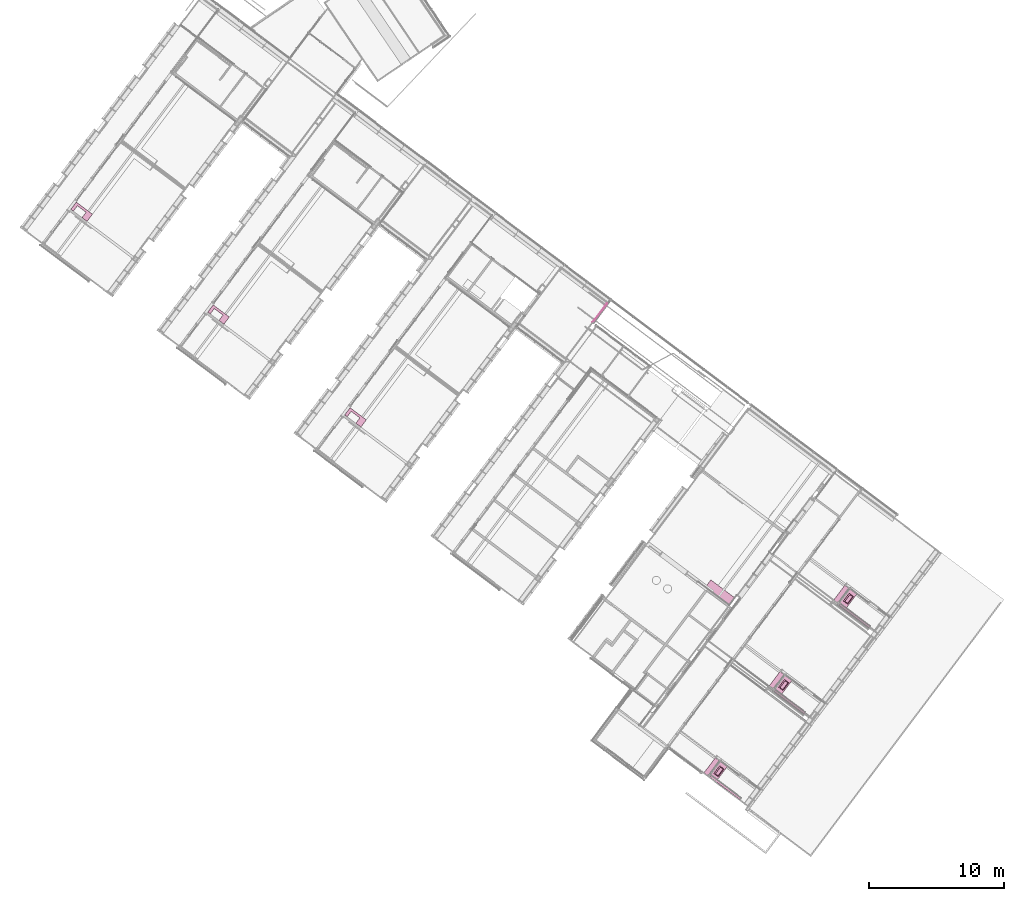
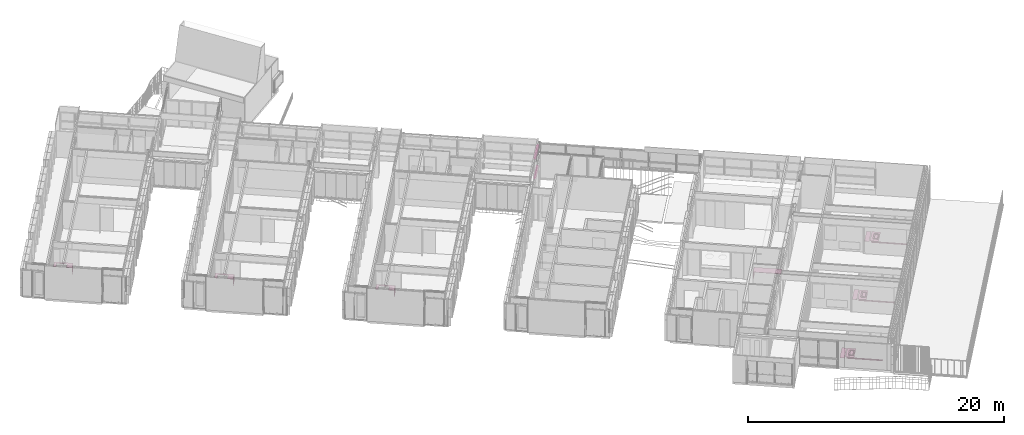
# One storey, part 242 of 243: 18 furnishings.
"""IFC2X3 building model written with IfcOpenShell, lengths in metres."""

from ifc_helpers import new_model, entity, si_unit, converted_unit, derived_unit, direction, frame, frame_2d, origin, origin_2d_with_axis, place, context, subcontext, project, spatial, polyline, rectangle, outline, extrude, source, transform, mapped, material, type_object, type_shapes, element, save


model = new_model("IFC2X3")

# Units and contexts
model_context = context("Model", 3, precision=1e-05, world=origin(), true_north=direction((6.123031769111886e-17, 1.0)))
body_context = subcontext(model_context, "Body", "Model", "MODEL_VIEW")
ifc_project = project(units=[si_unit("LENGTHUNIT", "METRE"), si_unit("AREAUNIT", "SQUARE_METRE"), si_unit("VOLUMEUNIT", "CUBIC_METRE"), converted_unit("PLANEANGLEUNIT", "DEGREE", entity("IfcRatioMeasure", 0.017453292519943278), si_unit("PLANEANGLEUNIT", "RADIAN"), dimensions=[0, 0, 0, 0, 0, 0, 0]), si_unit("MASSUNIT", "GRAM", prefix="KILO"), derived_unit("MASSDENSITYUNIT", [(si_unit("MASSUNIT", "GRAM", prefix="KILO"), 1), (si_unit("LENGTHUNIT", "METRE"), -3)]), derived_unit("IONCONCENTRATIONUNIT", [(si_unit("MASSUNIT", "GRAM", prefix="KILO"), 1), (si_unit("LENGTHUNIT", "METRE"), -3)]), derived_unit("MOMENTOFINERTIAUNIT", [(si_unit("LENGTHUNIT", "METRE"), 4)]), si_unit("TIMEUNIT", "SECOND"), si_unit("FREQUENCYUNIT", "HERTZ"), si_unit("THERMODYNAMICTEMPERATUREUNIT", "DEGREE_CELSIUS"), derived_unit("THERMALTRANSMITTANCEUNIT", [(si_unit("MASSUNIT", "GRAM", prefix="KILO"), 1), (si_unit("THERMODYNAMICTEMPERATUREUNIT", "KELVIN"), -1), (si_unit("TIMEUNIT", "SECOND"), -3)]), derived_unit("THERMALCONDUCTANCEUNIT", [(si_unit("MASSUNIT", "GRAM", prefix="KILO"), 1), (si_unit("THERMODYNAMICTEMPERATUREUNIT", "KELVIN"), -1), (si_unit("TIMEUNIT", "SECOND"), -3), (si_unit("LENGTHUNIT", "METRE"), 1)]), derived_unit("VOLUMETRICFLOWRATEUNIT", [(si_unit("LENGTHUNIT", "METRE"), 3), (si_unit("TIMEUNIT", "SECOND"), -1)]), derived_unit("MASSFLOWRATEUNIT", [(si_unit("MASSUNIT", "GRAM", prefix="KILO"), 1), (si_unit("TIMEUNIT", "SECOND"), -1)]), derived_unit("ROTATIONALFREQUENCYUNIT", [(si_unit("TIMEUNIT", "SECOND"), -1)]), si_unit("ELECTRICCURRENTUNIT", "AMPERE"), si_unit("ELECTRICVOLTAGEUNIT", "VOLT"), si_unit("POWERUNIT", "WATT"), si_unit("FORCEUNIT", "NEWTON", prefix="KILO"), si_unit("ILLUMINANCEUNIT", "LUX"), si_unit("LUMINOUSFLUXUNIT", "LUMEN"), si_unit("LUMINOUSINTENSITYUNIT", "CANDELA"), derived_unit("USERDEFINED", [(si_unit("MASSUNIT", "GRAM", prefix="KILO"), -1), (si_unit("LENGTHUNIT", "METRE"), -2), (si_unit("TIMEUNIT", "SECOND"), 3), (si_unit("LUMINOUSFLUXUNIT", "LUMEN"), 1)]), derived_unit("USERDEFINED", [(si_unit("MASSUNIT", "GRAM", prefix="KILO"), 1), (si_unit("TIMEUNIT", "SECOND"), -3), (si_unit("LENGTHUNIT", "METRE"), 3), (si_unit("ELECTRICCURRENTUNIT", "AMPERE"), -2)]), derived_unit("SOUNDPOWERUNIT", [(si_unit("MASSUNIT", "GRAM", prefix="KILO"), 1), (si_unit("TIMEUNIT", "SECOND"), -3), (si_unit("LENGTHUNIT", "METRE"), 2)]), derived_unit("SOUNDPRESSUREUNIT", [(si_unit("MASSUNIT", "GRAM", prefix="KILO"), 1), (si_unit("LENGTHUNIT", "METRE"), -1), (si_unit("TIMEUNIT", "SECOND"), -2)]), derived_unit("LINEARVELOCITYUNIT", [(si_unit("LENGTHUNIT", "METRE"), 1), (si_unit("TIMEUNIT", "SECOND"), -1)]), si_unit("PRESSUREUNIT", "PASCAL"), derived_unit("USERDEFINED", [(si_unit("MASSUNIT", "GRAM", prefix="KILO"), 1), (si_unit("LENGTHUNIT", "METRE"), -2), (si_unit("TIMEUNIT", "SECOND"), -2)]), derived_unit("LINEARFORCEUNIT", [(si_unit("MASSUNIT", "GRAM", prefix="KILO"), 1), (si_unit("TIMEUNIT", "SECOND"), -2)]), derived_unit("PLANARFORCEUNIT", [(si_unit("MASSUNIT", "GRAM", prefix="KILO"), 1), (si_unit("LENGTHUNIT", "METRE"), -1), (si_unit("TIMEUNIT", "SECOND"), -2)]), derived_unit("SPECIFICHEATCAPACITYUNIT", [(si_unit("THERMODYNAMICTEMPERATUREUNIT", "KELVIN"), -1), (si_unit("LENGTHUNIT", "METRE"), 2), (si_unit("TIMEUNIT", "SECOND"), -2)]), derived_unit("HEATINGVALUEUNIT", [(si_unit("LENGTHUNIT", "METRE"), 2), (si_unit("TIMEUNIT", "SECOND"), -2)]), derived_unit("VAPORPERMEABILITYUNIT", [(si_unit("LENGTHUNIT", "METRE"), -1), (si_unit("TIMEUNIT", "SECOND"), 1)]), derived_unit("DYNAMICVISCOSITYUNIT", [(si_unit("MASSUNIT", "GRAM", prefix="KILO"), 1), (si_unit("TIMEUNIT", "SECOND"), -1), (si_unit("LENGTHUNIT", "METRE"), -1)]), derived_unit("THERMALEXPANSIONCOEFFICIENTUNIT", [(si_unit("THERMODYNAMICTEMPERATUREUNIT", "KELVIN"), -1)]), derived_unit("MODULUSOFELASTICITYUNIT", [(si_unit("MASSUNIT", "GRAM", prefix="KILO"), 1), (si_unit("LENGTHUNIT", "METRE"), -1), (si_unit("TIMEUNIT", "SECOND"), -2)]), derived_unit("ISOTHERMALMOISTURECAPACITYUNIT", [(si_unit("LENGTHUNIT", "METRE"), 3), (si_unit("MASSUNIT", "GRAM", prefix="KILO"), -1)]), derived_unit("MOISTUREDIFFUSIVITYUNIT", [(si_unit("TIMEUNIT", "SECOND"), -1), (si_unit("LENGTHUNIT", "METRE"), 2)])], contexts=[model_context])

# Site, building, storey
site_placement = place(None, frame((0.0, 0.0, 235.0), z_axis=(0.0, 0.0, 1.0), x_axis=(-0.7996477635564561, 0.6004693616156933, 0.0)))
site = spatial("IfcSite", under=ifc_project, at=site_placement, Name="Default", CompositionType="ELEMENT")
building_placement = place(site_placement, origin())
building = spatial("IfcBuilding", under=site, at=building_placement, CompositionType="ELEMENT")
storey_placement = place(building_placement, origin())
storey = spatial("IfcBuildingStorey", under=building, at=storey_placement, Name="P0- Escola", CompositionType="ELEMENT", Elevation=0.0)

# Furnishings
ifc_material_1 = material(Name="_Fusta massisa- T1")
furniture_type_1 = type_object("IfcFurnitureType", Name="Mobiliario 3:Mobiliario 3", material=ifc_material_1)
shared_shape_1 = source(origin(), body_context, "Body", "SweptSolid", [
    extrude(rectangle(XDim=0.6679999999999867, YDim=0.030000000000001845, at=frame_2d((0.0, -4.331604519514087e-15), x_axis=(1.0, 0.0))), frame((0.01499999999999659, 0.33399999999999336, 0.0), z_axis=(0.0, 0.0, 1.0), x_axis=(0.0, 1.0, 0.0)), (0.0, 0.0, 1.0), 0.62),
    extrude(outline(polyline([(-0.8105000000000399, -0.3764999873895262), (0.6894999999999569, -0.3764999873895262), (0.689499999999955, 0.2915000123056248), (0.46050005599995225, 0.2915000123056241), (0.4605000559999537, -0.20650003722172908), (-0.3395000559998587, -0.20650003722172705), (-0.3395000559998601, 0.29150001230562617), (-0.8105000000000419, 0.2915000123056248), (-0.8105000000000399, -0.3764999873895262)])), frame((0.810500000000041, 0.3764999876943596, 0.62)), (0.0, 0.0, 1.0), 0.030000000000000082),
])
type_shapes(furniture_type_1, [shared_shape_1])
furnishing_1_placement = place(storey_placement, frame((45.77414768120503, -24.299189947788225, 0.0)))
element("IfcFurnishingElement", 1, at=furnishing_1_placement, inside=storey, type_object=furniture_type_1, material=ifc_material_1, Name="Mobiliario 3:Mobiliario 3", ObjectType="Mobiliario 3:Mobiliario 3", context=body_context, shape_type="MappedRepresentation", body=[
    mapped(shared_shape_1, transform((0.0, 0.0, 0.0), scale=1.0)),
])
ifc_material_2 = material(Name="_silestone")
furniture_type_2 = type_object("IfcFurnitureType", Name="Prestatge banys:Prestatge banys", material=ifc_material_2)
shared_shape_2 = source(origin(), body_context, "Body", "SweptSolid", [
    extrude(rectangle(XDim=0.16000000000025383, YDim=2.799999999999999, at=origin_2d_with_axis()), frame((1.3999999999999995, 0.08000000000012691, 0.0), z_axis=(0.0, 0.0, 1.0), x_axis=(0.0, -1.0, 0.0)), (0.0, 0.0, 1.0), 0.02),
])
type_shapes(furniture_type_2, [shared_shape_2])
for number, where in (
    (2, (6.695147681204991, -26.51019175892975, 0.8299999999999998)),
    (3, (6.695147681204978, -34.51019175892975, 0.8299999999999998)),
):
    element("IfcFurnishingElement", number, at=place(storey_placement, frame(where)), inside=storey, type_object=furniture_type_2, material=ifc_material_2, Name="Prestatge banys:Prestatge banys", ObjectType="Prestatge banys:Prestatge banys", context=body_context, shape_type="MappedRepresentation", body=[
        mapped(shared_shape_2, transform((0.0, 0.0, 0.0), scale=1.0)),
    ])
furniture_type_3 = type_object("IfcFurnitureType", Name="Prestatge banys:Prestatge banys", material=ifc_material_2)
shared_shape_3 = source(origin(), body_context, "Body", "SweptSolid", [
    extrude(rectangle(XDim=1.2910000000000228, YDim=0.6829999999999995, at=origin_2d_with_axis()), frame((0.34149999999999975, 0.6455000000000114, 0.0), z_axis=(0.0, 0.0, 1.0), x_axis=(0.0, -1.0, 0.0)), (0.0, 0.0, 1.0), 0.02),
])
type_shapes(furniture_type_3, [shared_shape_3])
for number, where in (
    (4, (8.91675078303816, -27.801191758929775, 0.8299999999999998)),
    (5, (8.916750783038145, -35.801191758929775, 0.8299999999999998)),
):
    element("IfcFurnishingElement", number, at=place(storey_placement, frame(where)), inside=storey, type_object=furniture_type_3, material=ifc_material_2, Name="Prestatge banys:Prestatge banys", ObjectType="Prestatge banys:Prestatge banys", context=body_context, shape_type="MappedRepresentation", body=[
        mapped(shared_shape_3, transform((0.0, 0.0, 0.0), scale=1.0)),
    ])
furniture_type_4 = type_object("IfcFurnitureType", Name="Prestatge banys:Prestatge banys", material=ifc_material_2)
shared_shape_4 = source(origin(), body_context, "Body", "SweptSolid", [
    extrude(rectangle(XDim=1.3610000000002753, YDim=0.3800000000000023, at=origin_2d_with_axis()), frame((0.19000000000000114, 0.6805000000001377, 0.0), z_axis=(0.0, 0.0, 1.0), x_axis=(0.0, -1.0, 0.0)), (0.0, 0.0, 1.0), 0.02),
])
type_shapes(furniture_type_4, [shared_shape_4])
for number, where in (
    (6, (9.645147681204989, -27.801191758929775, 0.8299999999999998)),
    (7, (9.645147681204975, -35.801191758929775, 0.8299999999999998)),
):
    element("IfcFurnishingElement", number, at=place(storey_placement, frame(where)), inside=storey, type_object=furniture_type_4, material=ifc_material_2, Name="Prestatge banys:Prestatge banys", ObjectType="Prestatge banys:Prestatge banys", context=body_context, shape_type="MappedRepresentation", body=[
        mapped(shared_shape_4, transform((0.0, 0.0, 0.0), scale=1.0)),
    ])
ifc_material_3 = material(Name="<Unnamed>")
furniture_type_5 = type_object("IfcFurnitureType", Name="SIMPLE HANDWASH:PICA-", material=ifc_material_3)
shared_shape_5 = source(origin(), body_context, "Body", "SweptSolid", [
    extrude(rectangle(XDim=0.25000000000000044, YDim=0.620000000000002, at=origin_2d_with_axis()), frame((0.1750000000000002, 0.360000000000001, 0.0), z_axis=(0.0, 0.0, 1.0), x_axis=(-1.0, 0.0, 0.0)), (0.0, 0.0, 1.0), 0.09999999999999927),
    extrude(outline(polyline([(-0.3600000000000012, -0.19999999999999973), (0.3600000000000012, -0.19999999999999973), (0.3600000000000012, 0.19999999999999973), (-0.3600000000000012, 0.19999999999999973), (-0.3600000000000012, -0.19999999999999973)]), holes=[polyline([(0.3100000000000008, 0.14999999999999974), (0.3100000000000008, -0.10000000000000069), (-0.3100000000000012, -0.10000000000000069), (-0.3100000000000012, 0.14999999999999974), (0.3100000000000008, 0.14999999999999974)])]), frame((0.19999999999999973, 0.3600000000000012, 0.0), z_axis=(0.0, 0.0, 1.0), x_axis=(0.0, 1.0, 0.0)), (0.0, 0.0, 1.0), 0.20000000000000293),
])
type_shapes(furniture_type_5, [shared_shape_5])
for number, where, name in (
    (8, (9.00514768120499, -27.523191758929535, 0.6799999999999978), "SIMPLE HANDWASH:PICA-"),
    (9, (9.005147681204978, -35.523191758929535, 0.6799999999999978), "SIMPLE HANDWASH:PICA-"),
    (10, (9.005147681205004, -19.523191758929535, 0.6799999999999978), "SIMPLE HANDWASH:PICA-"),
):
    element("IfcFurnishingElement", number, at=place(storey_placement, frame(where)), inside=storey, type_object=furniture_type_5, material=ifc_material_3, Name=name, ObjectType="SIMPLE HANDWASH:PICA-", context=body_context, shape_type="MappedRepresentation", body=[
        mapped(shared_shape_5, transform((0.0, 0.0, 0.0), scale=1.0)),
    ])
furniture_type_6 = type_object("IfcFurnitureType", Name="prestatge fusta remat:prestatge fusta remat", material=ifc_material_1)
shared_shape_6 = source(origin(), body_context, "Body", "SweptSolid", [
    extrude(rectangle(XDim=0.05499999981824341, YDim=1.5649999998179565, at=origin_2d_with_axis()), frame((0.7824999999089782, 0.027499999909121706, 0.0), z_axis=(0.0, 0.0, 1.0), x_axis=(0.0, -1.0, 0.0)), (0.0, 0.0, 1.0), 0.03),
])
type_shapes(furniture_type_6, [shared_shape_6])
furnishing_2_placement = place(storey_placement, frame((36.65514768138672, -40.14019175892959, 0.6549999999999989), z_axis=(0.0, 0.0, 1.0), x_axis=(0.0, -1.0, 0.0)))
element("IfcFurnishingElement", 11, at=furnishing_2_placement, inside=storey, type_object=furniture_type_6, material=ifc_material_1, Name="prestatge fusta remat:prestatge fusta remat", ObjectType="prestatge fusta remat:prestatge fusta remat", context=body_context, shape_type="MappedRepresentation", body=[
    mapped(shared_shape_6, transform((0.0, 0.0, 0.0), scale=1.0)),
])
furniture_type_7 = type_object("IfcFurnitureType", Name="prestatge fusta remat:prestatge fusta remat", material=ifc_material_1)
shared_shape_7 = source(origin(), body_context, "Body", "SweptSolid", [
    extrude(rectangle(XDim=0.05499999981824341, YDim=1.7949999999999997, at=origin_2d_with_axis()), frame((0.8974999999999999, 0.027499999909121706, 0.0), z_axis=(0.0, 0.0, 1.0), x_axis=(0.0, -1.0, 0.0)), (0.0, 0.0, 1.0), 0.06),
])
type_shapes(furniture_type_7, [shared_shape_7])
furnishing_3_placement = place(storey_placement, frame((36.65514768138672, -40.14019175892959, 2.504999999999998), z_axis=(0.0, 0.0, 1.0), x_axis=(0.0, -1.0, 0.0)))
element("IfcFurnishingElement", 12, at=furnishing_3_placement, inside=storey, type_object=furniture_type_7, material=ifc_material_1, Name="prestatge fusta remat:prestatge fusta remat", ObjectType="prestatge fusta remat:prestatge fusta remat", context=body_context, shape_type="MappedRepresentation", body=[
    mapped(shared_shape_7, transform((0.0, 0.0, 0.0), scale=1.0)),
])
furniture_type_8 = type_object("IfcFurnitureType", Name="Mobiliario 1:Mobiliario 3", material=ifc_material_1)
shared_shape_8 = source(origin(), body_context, "Body", "SweptSolid", [
    extrude(rectangle(XDim=0.6679999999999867, YDim=0.030000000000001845, at=frame_2d((0.0, 4.331604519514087e-15), x_axis=(1.0, 0.0))), frame((0.015000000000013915, 0.33399999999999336, 0.0), z_axis=(0.0, 0.0, 1.0), x_axis=(0.0, 1.0, 0.0)), (0.0, 0.0, 1.0), 0.62),
    extrude(outline(polyline([(-0.8105000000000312, -0.3764999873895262), (0.6894999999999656, -0.3764999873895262), (0.6894999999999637, 0.2915000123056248), (0.46050005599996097, 0.2915000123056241), (0.46050005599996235, -0.20650003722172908), (-0.33950005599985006, -0.20650003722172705), (-0.33950005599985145, 0.29150001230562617), (-0.8105000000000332, 0.2915000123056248), (-0.8105000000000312, -0.3764999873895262)])), frame((0.810500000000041, 0.3764999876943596, 0.62)), (0.0, 0.0, 1.0), 0.030000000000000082),
])
type_shapes(furniture_type_8, [shared_shape_8])
furnishing_4_placement = place(storey_placement, frame((58.47414768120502, -24.299189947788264, 0.0)))
element("IfcFurnishingElement", 13, at=furnishing_4_placement, inside=storey, type_object=furniture_type_8, material=ifc_material_1, Name="Mobiliario 1:Mobiliario 3", ObjectType="Mobiliario 1:Mobiliario 3", context=body_context, shape_type="MappedRepresentation", body=[
    mapped(shared_shape_8, transform((0.0, 0.0, 0.0), scale=1.0)),
])
furniture_type_9 = type_object("IfcFurnitureType", Name="Mobiliario 4:Mobiliario 3", material=ifc_material_1)
shared_shape_9 = source(origin(), body_context, "Body", "SweptSolid", [
    extrude(rectangle(XDim=0.6679999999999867, YDim=0.030000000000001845, at=frame_2d((0.0, 4.331604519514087e-15), x_axis=(1.0, 0.0))), frame((0.015000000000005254, 0.33399999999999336, 0.0), z_axis=(0.0, 0.0, 1.0), x_axis=(0.0, 1.0, 0.0)), (0.0, 0.0, 1.0), 0.62),
    extrude(outline(polyline([(-0.8105000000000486, -0.3764999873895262), (0.6894999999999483, -0.3764999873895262), (0.6894999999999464, 0.2915000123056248), (0.4605000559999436, 0.2915000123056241), (0.46050005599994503, -0.20650003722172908), (-0.3395000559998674, -0.20650003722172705), (-0.33950005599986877, 0.29150001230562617), (-0.8105000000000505, 0.2915000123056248), (-0.8105000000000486, -0.3764999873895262)])), frame((0.8105000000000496, 0.3764999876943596, 0.62)), (0.0, 0.0, 1.0), 0.030000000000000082),
])
type_shapes(furniture_type_9, [shared_shape_9])
furnishing_5_placement = place(storey_placement, frame((71.17414768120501, -24.299189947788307, 0.0)))
element("IfcFurnishingElement", 14, at=furnishing_5_placement, inside=storey, type_object=furniture_type_9, material=ifc_material_1, Name="Mobiliario 4:Mobiliario 3", ObjectType="Mobiliario 4:Mobiliario 3", context=body_context, shape_type="MappedRepresentation", body=[
    mapped(shared_shape_9, transform((0.0, 0.0, 0.0), scale=1.0)),
])
furniture_type_10 = type_object("IfcFurnitureType", Name="Mobiliario 6:Mobiliario 3", material=ifc_material_1)
shared_shape_10 = source(origin(), body_context, "Body", "SweptSolid", [
    extrude(rectangle(XDim=0.03999999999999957, YDim=0.6679999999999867, at=origin_2d_with_axis()), frame((2.195000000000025, 0.33399999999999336, 0.0)), (0.0, 0.0, 1.0), 0.62),
    extrude(outline(polyline([(-0.4989803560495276, -1.389510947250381), (0.16901964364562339, -1.389510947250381), (0.16901964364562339, -0.03246721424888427), (0.16094106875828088, -0.03246721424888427), (0.16094106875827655, 0.596489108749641), (0.16901964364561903, 0.596489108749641), (0.16901964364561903, 0.8254890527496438), (-0.49898035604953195, 0.8254890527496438), (-0.4989803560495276, -1.389510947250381)])), frame((0.8254890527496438, 0.4989803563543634, 0.62), z_axis=(0.0, 0.0, 1.0), x_axis=(0.0, 1.0, 0.0)), (0.0, 0.0, 1.0), 0.030000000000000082),
])
type_shapes(furniture_type_10, [shared_shape_10])
furnishing_6_placement = place(storey_placement, frame((15.995147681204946, -30.15319175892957, 0.0)))
element("IfcFurnishingElement", 15, at=furnishing_6_placement, inside=storey, type_object=furniture_type_10, material=ifc_material_1, Name="Mobiliario 6:Mobiliario 3", ObjectType="Mobiliario 6:Mobiliario 3", context=body_context, shape_type="MappedRepresentation", body=[
    mapped(shared_shape_10, transform((0.0, 0.0, 0.0), scale=1.0)),
])
furniture_type_11 = type_object("IfcFurnitureType", Name="Prestatge banys:Prestatge banys", material=ifc_material_2)
shared_shape_11 = source(origin(), body_context, "Body", "SweptSolid", [
    extrude(rectangle(XDim=0.16000000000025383, YDim=2.8249999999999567, at=origin_2d_with_axis()), frame((1.4124999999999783, 0.08000000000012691, 0.0), z_axis=(0.0, 0.0, 1.0), x_axis=(0.0, -1.0, 0.0)), (0.0, 0.0, 1.0), 0.02),
])
type_shapes(furniture_type_11, [shared_shape_11])
furnishing_7_placement = place(storey_placement, frame((6.670147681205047, -18.57019175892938, 0.8299999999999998)))
element("IfcFurnishingElement", 16, at=furnishing_7_placement, inside=storey, type_object=furniture_type_11, material=ifc_material_2, Name="Prestatge banys:Prestatge banys", ObjectType="Prestatge banys:Prestatge banys", context=body_context, shape_type="MappedRepresentation", body=[
    mapped(shared_shape_11, transform((0.0, 0.0, 0.0), scale=1.0)),
])
furniture_type_12 = type_object("IfcFurnitureType", Name="Prestatge banys:Prestatge banys", material=ifc_material_2)
shared_shape_12 = source(origin(), body_context, "Body", "SweptSolid", [
    extrude(rectangle(XDim=1.2310000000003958, YDim=0.6829999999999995, at=origin_2d_with_axis()), frame((0.34149999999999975, 0.6155000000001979, 0.0), z_axis=(0.0, 0.0, 1.0), x_axis=(0.0, -1.0, 0.0)), (0.0, 0.0, 1.0), 0.02),
])
type_shapes(furniture_type_12, [shared_shape_12])
furnishing_8_placement = place(storey_placement, frame((8.916750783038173, -19.801191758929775, 0.8299999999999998)))
element("IfcFurnishingElement", 17, at=furnishing_8_placement, inside=storey, type_object=furniture_type_12, material=ifc_material_2, Name="Prestatge banys:Prestatge banys", ObjectType="Prestatge banys:Prestatge banys", context=body_context, shape_type="MappedRepresentation", body=[
    mapped(shared_shape_12, transform((0.0, 0.0, 0.0), scale=1.0)),
])
furniture_type_13 = type_object("IfcFurnitureType", Name="Prestatge banys:Prestatge banys", material=ifc_material_2)
shared_shape_13 = source(origin(), body_context, "Body", "SweptSolid", [
    extrude(rectangle(XDim=1.3960000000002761, YDim=0.3800000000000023, at=origin_2d_with_axis()), frame((0.19000000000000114, 0.6980000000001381, 0.0), z_axis=(0.0, 0.0, 1.0), x_axis=(0.0, -1.0, 0.0)), (0.0, 0.0, 1.0), 0.02),
])
type_shapes(furniture_type_13, [shared_shape_13])
furnishing_9_placement = place(storey_placement, frame((9.645147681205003, -19.801191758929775, 0.8299999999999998)))
element("IfcFurnishingElement", 18, at=furnishing_9_placement, inside=storey, type_object=furniture_type_13, material=ifc_material_2, Name="Prestatge banys:Prestatge banys", ObjectType="Prestatge banys:Prestatge banys", context=body_context, shape_type="MappedRepresentation", body=[
    mapped(shared_shape_13, transform((0.0, 0.0, 0.0), scale=1.0)),
])

save(model, "model.ifc")
